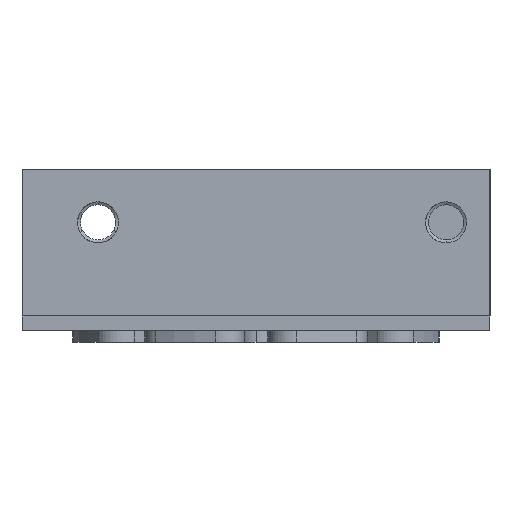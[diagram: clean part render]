
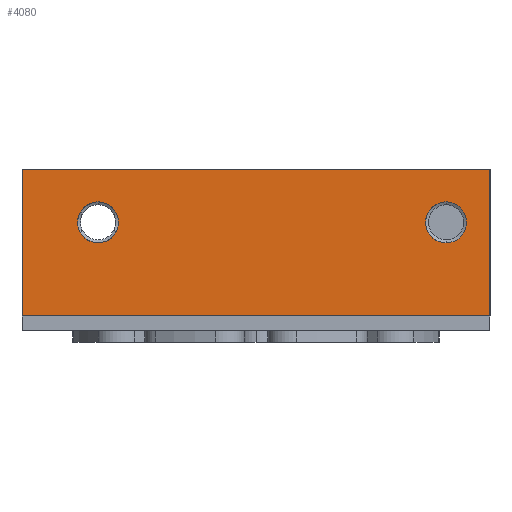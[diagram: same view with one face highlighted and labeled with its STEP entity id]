
A CAD part, left-side view. The second image highlights one B-rep face of the part: STEP entity #4080.
In plain terms, the highlighted planar face has unit normal (-1, 0, 0).
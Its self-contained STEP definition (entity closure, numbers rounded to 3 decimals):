
#47 = PLANE ( 'NONE',  #912 ) ;
#66 = EDGE_CURVE ( 'NONE', #4950, #2799, #2260, .T. ) ;
#76 = CARTESIAN_POINT ( 'NONE',  ( -70., 40., 25. ) ) ;
#170 = EDGE_CURVE ( 'NONE', #1554, #185, #2196, .T. ) ;
#185 = VERTEX_POINT ( 'NONE', #2457 ) ;
#335 = FACE_BOUND ( 'NONE', #2083, .T. ) ;
#560 = CARTESIAN_POINT ( 'NONE',  ( -70., -32.5, 16. ) ) ;
#662 = AXIS2_PLACEMENT_3D ( 'NONE', #4786, #4349, #6274 ) ;
#871 = DIRECTION ( 'NONE',  ( 0., 0., -1. ) ) ;
#901 = EDGE_CURVE ( 'NONE', #2799, #4950, #6293, .T. ) ;
#912 = AXIS2_PLACEMENT_3D ( 'NONE', #977, #4019, #6081 ) ;
#977 = CARTESIAN_POINT ( 'NONE',  ( -70., 40., 25. ) ) ;
#1019 = EDGE_CURVE ( 'NONE', #1245, #1789, #1757, .T. ) ;
#1048 = VECTOR ( 'NONE', #1658, 1000. ) ;
#1068 = VERTEX_POINT ( 'NONE', #6331 ) ;
#1127 = DIRECTION ( 'NONE',  ( 0., 0., 1. ) ) ;
#1200 = CARTESIAN_POINT ( 'NONE',  ( -70., 40., 25. ) ) ;
#1245 = VERTEX_POINT ( 'NONE', #4467 ) ;
#1313 = ORIENTED_EDGE ( 'NONE', *, *, #4963, .T. ) ;
#1416 = VECTOR ( 'NONE', #1867, 1000. ) ;
#1554 = VERTEX_POINT ( 'NONE', #76 ) ;
#1658 = DIRECTION ( 'NONE',  ( 0., 0., -1. ) ) ;
#1757 = LINE ( 'NONE', #6397, #6327 ) ;
#1789 = VERTEX_POINT ( 'NONE', #4099 ) ;
#1828 = ORIENTED_EDGE ( 'NONE', *, *, #170, .F. ) ;
#1867 = DIRECTION ( 'NONE',  ( 0., -1., 0. ) ) ;
#2020 = DIRECTION ( 'NONE',  ( -1., 0., 0. ) ) ;
#2083 = EDGE_LOOP ( 'NONE', ( #5698, #6125 ) ) ;
#2155 = CARTESIAN_POINT ( 'NONE',  ( -70., 27., 19.5 ) ) ;
#2196 = LINE ( 'NONE', #1200, #1416 ) ;
#2214 = CARTESIAN_POINT ( 'NONE',  ( -70., -32.5, 12.5 ) ) ;
#2246 = EDGE_CURVE ( 'NONE', #2442, #1068, #3658, .T. ) ;
#2260 = CIRCLE ( 'NONE', #662, 3.5 ) ;
#2433 = ORIENTED_EDGE ( 'NONE', *, *, #3741, .F. ) ;
#2442 = VERTEX_POINT ( 'NONE', #2214 ) ;
#2457 = CARTESIAN_POINT ( 'NONE',  ( -70., -40., 25. ) ) ;
#2459 = LINE ( 'NONE', #4582, #6370 ) ;
#2578 = FACE_BOUND ( 'NONE', #6457, .T. ) ;
#2650 = CIRCLE ( 'NONE', #4913, 3.5 ) ;
#2693 = LINE ( 'NONE', #6272, #1048 ) ;
#2799 = VERTEX_POINT ( 'NONE', #3717 ) ;
#3121 = DIRECTION ( 'NONE',  ( -1., 0., 0. ) ) ;
#3269 = DIRECTION ( 'NONE',  ( 0., -1., 0. ) ) ;
#3396 = AXIS2_PLACEMENT_3D ( 'NONE', #6635, #2020, #5221 ) ;
#3658 = CIRCLE ( 'NONE', #5919, 3.5 ) ;
#3717 = CARTESIAN_POINT ( 'NONE',  ( -70., 27., 12.5 ) ) ;
#3741 = EDGE_CURVE ( 'NONE', #185, #1789, #2459, .T. ) ;
#4019 = DIRECTION ( 'NONE',  ( 1., 0., 0. ) ) ;
#4054 = FACE_OUTER_BOUND ( 'NONE', #4232, .T. ) ;
#4057 = DIRECTION ( 'NONE',  ( 0., 0., 1. ) ) ;
#4070 = ORIENTED_EDGE ( 'NONE', *, *, #4971, .F. ) ;
#4080 = ADVANCED_FACE ( 'NONE', ( #2578, #335, #4054 ), #47, .F. ) ;
#4099 = CARTESIAN_POINT ( 'NONE',  ( -70., -40., 0. ) ) ;
#4168 = ORIENTED_EDGE ( 'NONE', *, *, #2246, .F. ) ;
#4232 = EDGE_LOOP ( 'NONE', ( #5994, #2433, #1828, #1313 ) ) ;
#4349 = DIRECTION ( 'NONE',  ( -1., 0., 0. ) ) ;
#4467 = CARTESIAN_POINT ( 'NONE',  ( -70., 40., 0. ) ) ;
#4582 = CARTESIAN_POINT ( 'NONE',  ( -70., -40., 25. ) ) ;
#4786 = CARTESIAN_POINT ( 'NONE',  ( -70., 27., 16. ) ) ;
#4913 = AXIS2_PLACEMENT_3D ( 'NONE', #560, #6301, #1127 ) ;
#4950 = VERTEX_POINT ( 'NONE', #2155 ) ;
#4963 = EDGE_CURVE ( 'NONE', #1554, #1245, #2693, .T. ) ;
#4971 = EDGE_CURVE ( 'NONE', #1068, #2442, #2650, .T. ) ;
#5221 = DIRECTION ( 'NONE',  ( 0., 0., 1. ) ) ;
#5698 = ORIENTED_EDGE ( 'NONE', *, *, #66, .F. ) ;
#5919 = AXIS2_PLACEMENT_3D ( 'NONE', #6188, #3121, #4057 ) ;
#5994 = ORIENTED_EDGE ( 'NONE', *, *, #1019, .T. ) ;
#6081 = DIRECTION ( 'NONE',  ( 0., 0., -1. ) ) ;
#6125 = ORIENTED_EDGE ( 'NONE', *, *, #901, .F. ) ;
#6188 = CARTESIAN_POINT ( 'NONE',  ( -70., -32.5, 16. ) ) ;
#6272 = CARTESIAN_POINT ( 'NONE',  ( -70., 40., 25. ) ) ;
#6274 = DIRECTION ( 'NONE',  ( 0., 0., 1. ) ) ;
#6293 = CIRCLE ( 'NONE', #3396, 3.5 ) ;
#6301 = DIRECTION ( 'NONE',  ( -1., 0., 0. ) ) ;
#6327 = VECTOR ( 'NONE', #3269, 1000. ) ;
#6331 = CARTESIAN_POINT ( 'NONE',  ( -70., -32.5, 19.5 ) ) ;
#6370 = VECTOR ( 'NONE', #871, 1000. ) ;
#6397 = CARTESIAN_POINT ( 'NONE',  ( -70., 40., 0. ) ) ;
#6457 = EDGE_LOOP ( 'NONE', ( #4070, #4168 ) ) ;
#6635 = CARTESIAN_POINT ( 'NONE',  ( -70., 27., 16. ) ) ;
